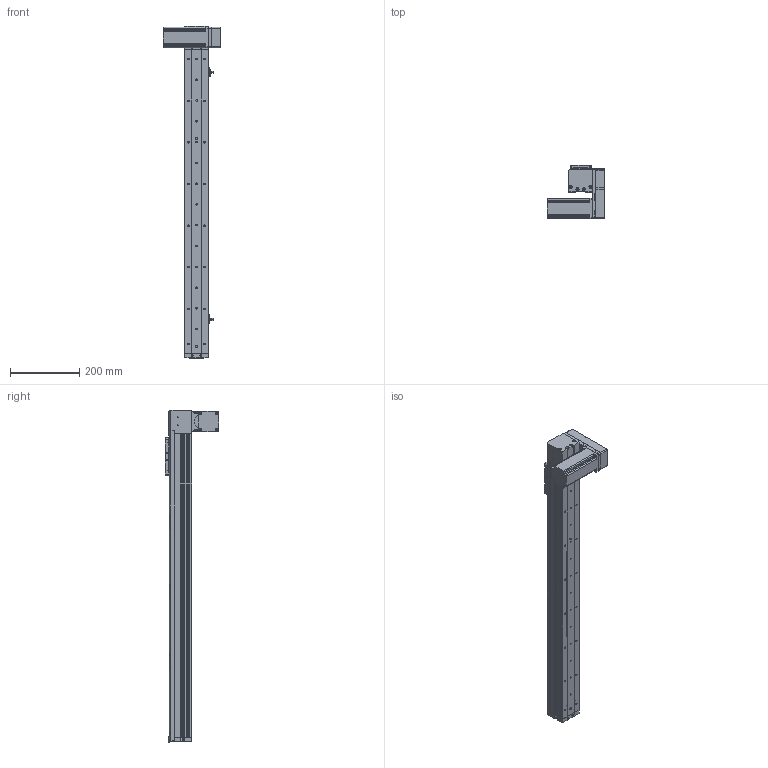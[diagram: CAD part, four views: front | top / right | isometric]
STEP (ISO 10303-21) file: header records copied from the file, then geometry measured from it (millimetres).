
FILE_DESCRIPTION (( 'STEP AP214' ), '1' );
FILE_NAME ('KSD68BS-S700-MLD-CR.STEP', '2019-08-27T03:44:01', ( '微软用户' ), ( '微软中国' ), 'SwSTEP 2.0', 'SolidWorks 2014', '' );
FILE_SCHEMA (( 'AUTOMOTIVE_DESIGN' ));
Length unit declared in the file: millimetre
Products named in the file (14): 68宽单导轨全封闭丝杆传动安装板1防护罩; KSD68BS 700行程侧板全封闭; KSD68BS 700行程盖板全封闭; 68遵裔啣揤啣1; 68宽单导轨全封闭同步带端板; 68单导轨全封闭同步带电机座左; 68单导轨全封闭同步带安装板; 悵誘欶奻狟殏; 68宽马达安装板连板上折同步带; 感应片68宽全封闭; U倰嫖萇EEㄜSX672; 台达ECMA－C20604AS伺服电机（400W); KSD68BS 700行程底板全封闭; KSD68BS-S700-MLD-CR
Assembly tree (16 placements, depth 2):
  KSD68BS-S700-MLD-CR
    KSD68BS 700行程底板全封闭
    台达ECMA－C20604AS伺服电机（400W)
    U倰嫖萇EEㄜSX672  x2
    感应片68宽全封闭
    68宽马达安装板连板上折同步带
    悵誘欶奻狟殏
    68单导轨全封闭同步带安装板
    68单导轨全封闭同步带电机座左
    68宽单导轨全封闭同步带端板
    KSD68BS 700行程侧板全封闭  x2
    68宽单导轨全封闭丝杆传动安装板1防护罩
    68遵裔啣揤啣1  x2
    KSD68BS 700行程盖板全封闭
Bounding box: 167.2 x 155.5 x 958.1 mm (x, y, z)
Volume: 2130261.1 mm3; surface area: 779666.1 mm2
Topology: 17 solids, 17 shells, 1355 faces, 3839 edges, 2454 vertices
Faces by surface type: cylinder 648, plane 555, cone 152
Entity records: 45763 total; most frequent: CARTESIAN_POINT 7818, DIRECTION 6876, ORIENTED_EDGE 6586, EDGE_CURVE 3293, AXIS2_PLACEMENT_3D 2468, VERTEX_POINT 2160, LINE 1940, VECTOR 1940
